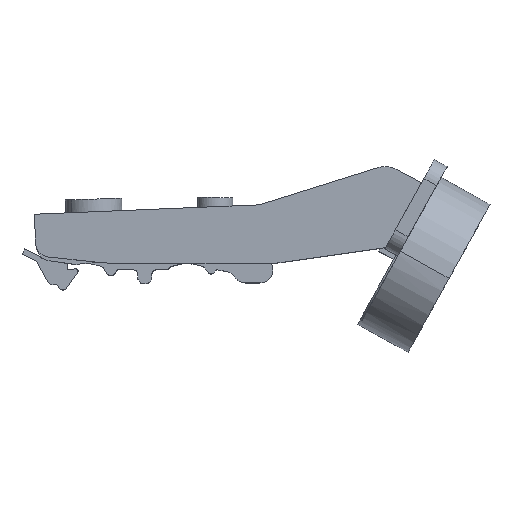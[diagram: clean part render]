
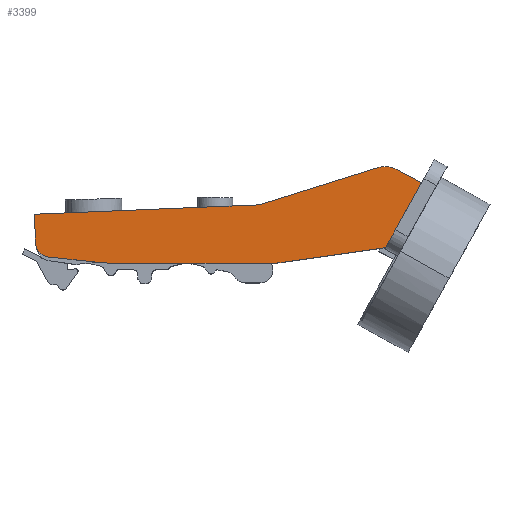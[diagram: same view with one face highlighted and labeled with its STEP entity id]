
A CAD part, top view. The second image highlights one B-rep face of the part: STEP entity #3399.
In plain terms, the highlighted planar face has unit normal (0, 0, 1).
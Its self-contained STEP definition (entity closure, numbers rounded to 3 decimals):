
#4 = CARTESIAN_POINT ( 'NONE',  ( 29.532, 17.129, 8.6 ) ) ;
#17 = DIRECTION ( 'NONE',  ( 1., -0.002, 0. ) ) ;
#39 = EDGE_CURVE ( 'NONE', #335, #4561, #3264, .T. ) ;
#44 = CARTESIAN_POINT ( 'NONE',  ( 20.057, 13.557, 8.6 ) ) ;
#65 = DIRECTION ( 'NONE',  ( 1., -0.002, 0. ) ) ;
#90 = CARTESIAN_POINT ( 'NONE',  ( -4.575, 12.546, 8.6 ) ) ;
#105 = ORIENTED_EDGE ( 'NONE', *, *, #2362, .T. ) ;
#133 = VECTOR ( 'NONE', #3954, 1000. ) ;
#157 = DIRECTION ( 'NONE',  ( 0., 0., 1. ) ) ;
#178 = DIRECTION ( 'NONE',  ( -1., 0.002, 0. ) ) ;
#212 = CIRCLE ( 'NONE', #2740, 5. ) ;
#216 = CARTESIAN_POINT ( 'NONE',  ( -47.013, 4.806, 8.6 ) ) ;
#260 = DIRECTION ( 'NONE',  ( 1., 0., 0. ) ) ;
#269 = VECTOR ( 'NONE', #4276, 1000. ) ;
#289 = EDGE_CURVE ( 'NONE', #2364, #581, #3114, .T. ) ;
#299 = CARTESIAN_POINT ( 'NONE',  ( -50.26, 10.633, 8.6 ) ) ;
#301 = VERTEX_POINT ( 'NONE', #2118 ) ;
#335 = VERTEX_POINT ( 'NONE', #90 ) ;
#436 = VERTEX_POINT ( 'NONE', #1997 ) ;
#469 = VERTEX_POINT ( 'NONE', #1621 ) ;
#545 = ORIENTED_EDGE ( 'NONE', *, *, #3531, .T. ) ;
#576 = AXIS2_PLACEMENT_3D ( 'NONE', #2629, #1956, #946 ) ;
#581 = VERTEX_POINT ( 'NONE', #3855 ) ;
#589 = LINE ( 'NONE', #4115, #2644 ) ;
#657 = ORIENTED_EDGE ( 'NONE', *, *, #2001, .F. ) ;
#700 = CARTESIAN_POINT ( 'NONE',  ( 21.46, 3.656, 8.6 ) ) ;
#728 = VECTOR ( 'NONE', #65, 1000. ) ;
#729 = CARTESIAN_POINT ( 'NONE',  ( 24.281, 19.875, 8.6 ) ) ;
#795 = CARTESIAN_POINT ( 'NONE',  ( -2.282, 0.497, 8.6 ) ) ;
#880 = LINE ( 'NONE', #4441, #4515 ) ;
#896 = ORIENTED_EDGE ( 'NONE', *, *, #289, .T. ) ;
#905 = DIRECTION ( 'NONE',  ( -0.042, 0.999, 0. ) ) ;
#913 = ORIENTED_EDGE ( 'NONE', *, *, #1054, .T. ) ;
#943 = VECTOR ( 'NONE', #2524, 1000. ) ;
#946 = DIRECTION ( 'NONE',  ( 1., -0.002, 0. ) ) ;
#1003 = ORIENTED_EDGE ( 'NONE', *, *, #2627, .F. ) ;
#1054 = EDGE_CURVE ( 'NONE', #2408, #301, #1325, .T. ) ;
#1155 = EDGE_CURVE ( 'NONE', #436, #4454, #2646, .T. ) ;
#1164 = AXIS2_PLACEMENT_3D ( 'NONE', #2679, #1668, #2021 ) ;
#1200 = VERTEX_POINT ( 'NONE', #2431 ) ;
#1325 = CIRCLE ( 'NONE', #2499, 10. ) ;
#1340 = VERTEX_POINT ( 'NONE', #2045 ) ;
#1358 = DIRECTION ( 'NONE',  ( -0.954, -0.299, 0. ) ) ;
#1442 = DIRECTION ( 'NONE',  ( 0.485, 0.875, 0. ) ) ;
#1508 = EDGE_CURVE ( 'NONE', #3153, #2364, #1839, .T. ) ;
#1528 = VECTOR ( 'NONE', #1886, 1000. ) ;
#1576 = EDGE_CURVE ( 'NONE', #1200, #2750, #4190, .T. ) ;
#1621 = CARTESIAN_POINT ( 'NONE',  ( 29.532, 17.129, 8.6 ) ) ;
#1650 = DIRECTION ( 'NONE',  ( 0., 0., -1. ) ) ;
#1668 = DIRECTION ( 'NONE',  ( 0., 0., 1. ) ) ;
#1669 = CARTESIAN_POINT ( 'NONE',  ( 24.848, 10.96, 8.6 ) ) ;
#1739 = CARTESIAN_POINT ( 'NONE',  ( -33.916, 0.554, 8.6 ) ) ;
#1785 = LINE ( 'NONE', #3905, #943 ) ;
#1793 = ORIENTED_EDGE ( 'NONE', *, *, #1155, .F. ) ;
#1839 = CIRCLE ( 'NONE', #1164, 5. ) ;
#1886 = DIRECTION ( 'NONE',  ( -0.999, -0.042, 0. ) ) ;
#1925 = VECTOR ( 'NONE', #1442, 1000. ) ;
#1941 = CARTESIAN_POINT ( 'NONE',  ( -50.011, 4.68, 8.6 ) ) ;
#1956 = DIRECTION ( 'NONE',  ( 0., 0., -1. ) ) ;
#1997 = CARTESIAN_POINT ( 'NONE',  ( -47.332, 1.823, 8.6 ) ) ;
#2001 = EDGE_CURVE ( 'NONE', #1200, #436, #1785, .T. ) ;
#2021 = DIRECTION ( 'NONE',  ( 1., 0., 0. ) ) ;
#2045 = CARTESIAN_POINT ( 'NONE',  ( 28.866, 15.927, 8.6 ) ) ;
#2064 = EDGE_CURVE ( 'NONE', #2408, #4221, #2865, .T. ) ;
#2118 = CARTESIAN_POINT ( 'NONE',  ( 22.129, 3.774, 8.6 ) ) ;
#2211 = EDGE_LOOP ( 'NONE', ( #3831, #4266, #1793, #657, #4005, #4296, #1003, #3846, #913, #105, #3610, #4049, #3139, #896, #545 ) ) ;
#2234 = LINE ( 'NONE', #3916, #133 ) ;
#2316 = FACE_OUTER_BOUND ( 'NONE', #2211, .T. ) ;
#2362 = EDGE_CURVE ( 'NONE', #301, #1340, #589, .T. ) ;
#2364 = VERTEX_POINT ( 'NONE', #4142 ) ;
#2408 = VERTEX_POINT ( 'NONE', #700 ) ;
#2429 = DIRECTION ( 'NONE',  ( 0., 0., -1. ) ) ;
#2431 = CARTESIAN_POINT ( 'NONE',  ( -37.052, 0.724, 8.6 ) ) ;
#2499 = AXIS2_PLACEMENT_3D ( 'NONE', #44, #4273, #17 ) ;
#2524 = DIRECTION ( 'NONE',  ( -0.994, 0.106, 0. ) ) ;
#2622 = PLANE ( 'NONE',  #3765 ) ;
#2627 = EDGE_CURVE ( 'NONE', #4221, #3304, #2942, .T. ) ;
#2629 = CARTESIAN_POINT ( 'NONE',  ( -2.246, 20.497, 8.6 ) ) ;
#2644 = VECTOR ( 'NONE', #3689, 1000. ) ;
#2646 = CIRCLE ( 'NONE', #4498, 3. ) ;
#2679 = CARTESIAN_POINT ( 'NONE',  ( 21.964, 15.444, 8.6 ) ) ;
#2740 = AXIS2_PLACEMENT_3D ( 'NONE', #3784, #2429, #260 ) ;
#2750 = VERTEX_POINT ( 'NONE', #1739 ) ;
#2865 = LINE ( 'NONE', #3188, #269 ) ;
#2942 = CIRCLE ( 'NONE', #576, 20. ) ;
#2944 = EDGE_CURVE ( 'NONE', #1340, #469, #3191, .T. ) ;
#3070 = DIRECTION ( 'NONE',  ( 1., -0.002, 0. ) ) ;
#3114 = LINE ( 'NONE', #4519, #4481 ) ;
#3139 = ORIENTED_EDGE ( 'NONE', *, *, #1508, .T. ) ;
#3153 = VERTEX_POINT ( 'NONE', #729 ) ;
#3188 = CARTESIAN_POINT ( 'NONE',  ( 21.46, 3.656, 8.6 ) ) ;
#3191 = LINE ( 'NONE', #4, #1925 ) ;
#3251 = CARTESIAN_POINT ( 'NONE',  ( 6.444, 0.482, 8.6 ) ) ;
#3264 = LINE ( 'NONE', #4007, #1528 ) ;
#3304 = VERTEX_POINT ( 'NONE', #795 ) ;
#3336 = EDGE_CURVE ( 'NONE', #2750, #3304, #3946, .T. ) ;
#3384 = CARTESIAN_POINT ( 'NONE',  ( -33.863, 30.554, 8.6 ) ) ;
#3386 = DIRECTION ( 'NONE',  ( 0., 0., 1. ) ) ;
#3399 = ADVANCED_FACE ( 'NONE', ( #2316 ), #2622, .T. ) ;
#3531 = EDGE_CURVE ( 'NONE', #581, #335, #212, .T. ) ;
#3610 = ORIENTED_EDGE ( 'NONE', *, *, #2944, .T. ) ;
#3669 = CARTESIAN_POINT ( 'NONE',  ( 0.559, 0.695, 8.6 ) ) ;
#3689 = DIRECTION ( 'NONE',  ( 0.485, 0.875, 0. ) ) ;
#3765 = AXIS2_PLACEMENT_3D ( 'NONE', #1669, #3386, #3070 ) ;
#3784 = CARTESIAN_POINT ( 'NONE',  ( -4.784, 17.542, 8.6 ) ) ;
#3831 = ORIENTED_EDGE ( 'NONE', *, *, #39, .T. ) ;
#3846 = ORIENTED_EDGE ( 'NONE', *, *, #2064, .F. ) ;
#3855 = CARTESIAN_POINT ( 'NONE',  ( -3.289, 12.771, 8.6 ) ) ;
#3905 = CARTESIAN_POINT ( 'NONE',  ( -39.905, 1.029, 8.6 ) ) ;
#3916 = CARTESIAN_POINT ( 'NONE',  ( 29.532, 17.129, 8.6 ) ) ;
#3946 = LINE ( 'NONE', #3251, #728 ) ;
#3954 = DIRECTION ( 'NONE',  ( -0.886, 0.463, 0. ) ) ;
#4005 = ORIENTED_EDGE ( 'NONE', *, *, #1576, .T. ) ;
#4007 = CARTESIAN_POINT ( 'NONE',  ( -11.17, 12.27, 8.6 ) ) ;
#4038 = AXIS2_PLACEMENT_3D ( 'NONE', #3384, #157, #178 ) ;
#4049 = ORIENTED_EDGE ( 'NONE', *, *, #4144, .T. ) ;
#4115 = CARTESIAN_POINT ( 'NONE',  ( 24.135, 7.393, 8.6 ) ) ;
#4142 = CARTESIAN_POINT ( 'NONE',  ( 20.469, 20.215, 8.6 ) ) ;
#4144 = EDGE_CURVE ( 'NONE', #469, #3153, #2234, .T. ) ;
#4190 = CIRCLE ( 'NONE', #4038, 30. ) ;
#4221 = VERTEX_POINT ( 'NONE', #3669 ) ;
#4231 = EDGE_CURVE ( 'NONE', #4454, #4561, #880, .T. ) ;
#4266 = ORIENTED_EDGE ( 'NONE', *, *, #4231, .F. ) ;
#4273 = DIRECTION ( 'NONE',  ( 0., 0., 1. ) ) ;
#4276 = DIRECTION ( 'NONE',  ( -0.99, -0.14, 0. ) ) ;
#4296 = ORIENTED_EDGE ( 'NONE', *, *, #3336, .T. ) ;
#4441 = CARTESIAN_POINT ( 'NONE',  ( -50.118, 7.234, 8.6 ) ) ;
#4454 = VERTEX_POINT ( 'NONE', #1941 ) ;
#4455 = DIRECTION ( 'NONE',  ( 1., -0.002, 0. ) ) ;
#4481 = VECTOR ( 'NONE', #1358, 1000. ) ;
#4498 = AXIS2_PLACEMENT_3D ( 'NONE', #216, #1650, #4455 ) ;
#4515 = VECTOR ( 'NONE', #905, 1000. ) ;
#4519 = CARTESIAN_POINT ( 'NONE',  ( 20.469, 20.215, 8.6 ) ) ;
#4561 = VERTEX_POINT ( 'NONE', #299 ) ;
